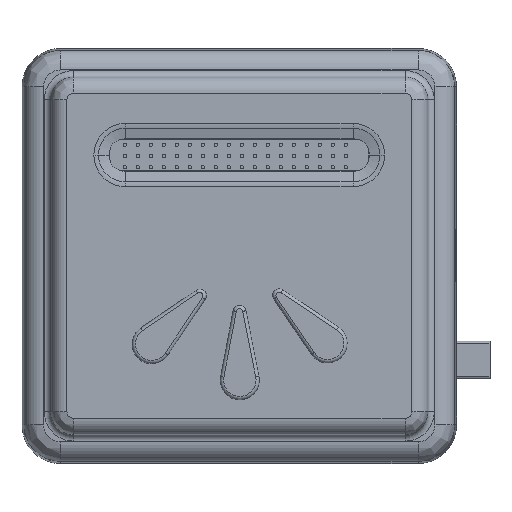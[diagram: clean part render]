
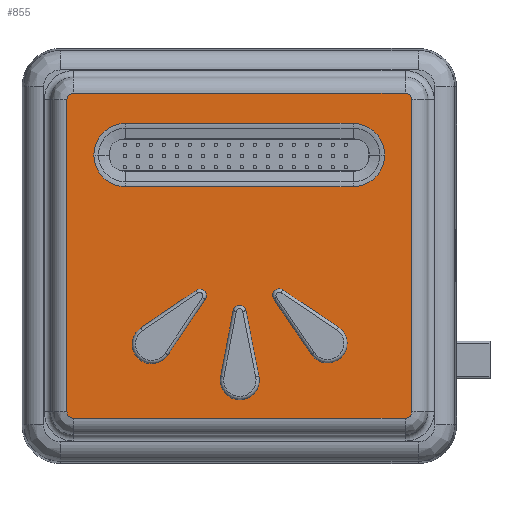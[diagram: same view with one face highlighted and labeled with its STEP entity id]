
A CAD part, top view. The second image highlights one B-rep face of the part: STEP entity #855.
In plain terms, the highlighted planar face has unit normal (0, 0, 1).
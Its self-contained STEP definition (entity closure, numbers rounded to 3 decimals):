
#551=FACE_BOUND('',#1646,.T.);
#552=FACE_BOUND('',#1647,.T.);
#553=FACE_BOUND('',#1648,.T.);
#554=FACE_BOUND('',#1649,.T.);
#555=FACE_BOUND('',#1650,.T.);
#855=ADVANCED_FACE('',(#551,#552,#553,#554,#555),#1233,.T.);
#1233=PLANE('',#6604);
#1646=EDGE_LOOP('',(#2701,#2702,#2703,#2704,#2705,#2706));
#1647=EDGE_LOOP('',(#2707,#2708,#2709,#2710,#2711,#2712,#2713,#2714));
#1648=EDGE_LOOP('',(#2715,#2716,#2717,#2718));
#1649=EDGE_LOOP('',(#2719,#2720,#2721,#2722));
#1650=EDGE_LOOP('',(#2723,#2724,#2725,#2726));
#2254=CIRCLE('',#6590,4.869);
#2255=CIRCLE('',#6591,4.869);
#2256=CIRCLE('',#6592,4.869);
#2257=CIRCLE('',#6593,4.869);
#2258=CIRCLE('',#6594,1.);
#2259=CIRCLE('',#6595,1.);
#2260=CIRCLE('',#6596,1.);
#2261=CIRCLE('',#6597,1.);
#2262=CIRCLE('',#6598,3.);
#2263=CIRCLE('',#6599,1.);
#2264=CIRCLE('',#6600,3.);
#2265=CIRCLE('',#6601,1.);
#2266=CIRCLE('',#6602,3.);
#2267=CIRCLE('',#6603,1.);
#2701=ORIENTED_EDGE('',*,*,#5094,.T.);
#2702=ORIENTED_EDGE('',*,*,#5095,.T.);
#2703=ORIENTED_EDGE('',*,*,#5096,.T.);
#2704=ORIENTED_EDGE('',*,*,#5097,.T.);
#2705=ORIENTED_EDGE('',*,*,#5098,.T.);
#2706=ORIENTED_EDGE('',*,*,#5099,.T.);
#2707=ORIENTED_EDGE('',*,*,#5100,.F.);
#2708=ORIENTED_EDGE('',*,*,#5101,.T.);
#2709=ORIENTED_EDGE('',*,*,#5102,.T.);
#2710=ORIENTED_EDGE('',*,*,#5103,.T.);
#2711=ORIENTED_EDGE('',*,*,#5104,.T.);
#2712=ORIENTED_EDGE('',*,*,#5105,.T.);
#2713=ORIENTED_EDGE('',*,*,#5106,.T.);
#2714=ORIENTED_EDGE('',*,*,#5107,.T.);
#2715=ORIENTED_EDGE('',*,*,#5108,.T.);
#2716=ORIENTED_EDGE('',*,*,#5109,.T.);
#2717=ORIENTED_EDGE('',*,*,#5110,.T.);
#2718=ORIENTED_EDGE('',*,*,#5111,.T.);
#2719=ORIENTED_EDGE('',*,*,#5112,.T.);
#2720=ORIENTED_EDGE('',*,*,#5113,.T.);
#2721=ORIENTED_EDGE('',*,*,#5114,.T.);
#2722=ORIENTED_EDGE('',*,*,#5115,.T.);
#2723=ORIENTED_EDGE('',*,*,#5116,.T.);
#2724=ORIENTED_EDGE('',*,*,#5117,.T.);
#2725=ORIENTED_EDGE('',*,*,#5118,.T.);
#2726=ORIENTED_EDGE('',*,*,#5119,.T.);
#4471=VERTEX_POINT('',#9137);
#4472=VERTEX_POINT('',#9138);
#4473=VERTEX_POINT('',#9140);
#4474=VERTEX_POINT('',#9142);
#4475=VERTEX_POINT('',#9144);
#4476=VERTEX_POINT('',#9146);
#4477=VERTEX_POINT('',#9149);
#4478=VERTEX_POINT('',#9150);
#4479=VERTEX_POINT('',#9152);
#4480=VERTEX_POINT('',#9154);
#4481=VERTEX_POINT('',#9156);
#4482=VERTEX_POINT('',#9158);
#4483=VERTEX_POINT('',#9160);
#4484=VERTEX_POINT('',#9162);
#4485=VERTEX_POINT('',#9165);
#4486=VERTEX_POINT('',#9166);
#4487=VERTEX_POINT('',#9168);
#4488=VERTEX_POINT('',#9170);
#4489=VERTEX_POINT('',#9173);
#4490=VERTEX_POINT('',#9174);
#4491=VERTEX_POINT('',#9176);
#4492=VERTEX_POINT('',#9178);
#4493=VERTEX_POINT('',#9181);
#4494=VERTEX_POINT('',#9182);
#4495=VERTEX_POINT('',#9184);
#4496=VERTEX_POINT('',#9186);
#5094=EDGE_CURVE('',#4471,#4472,#2254,.T.);
#5095=EDGE_CURVE('',#4472,#4473,#2255,.T.);
#5096=EDGE_CURVE('',#4473,#4474,#5951,.T.);
#5097=EDGE_CURVE('',#4474,#4475,#2256,.T.);
#5098=EDGE_CURVE('',#4475,#4476,#2257,.T.);
#5099=EDGE_CURVE('',#4476,#4471,#5952,.T.);
#5100=EDGE_CURVE('',#4477,#4478,#2258,.T.);
#5101=EDGE_CURVE('',#4477,#4479,#5953,.T.);
#5102=EDGE_CURVE('',#4479,#4480,#2259,.T.);
#5103=EDGE_CURVE('',#4480,#4481,#5954,.T.);
#5104=EDGE_CURVE('',#4481,#4482,#2260,.T.);
#5105=EDGE_CURVE('',#4482,#4483,#5955,.T.);
#5106=EDGE_CURVE('',#4483,#4484,#2261,.T.);
#5107=EDGE_CURVE('',#4484,#4478,#5956,.T.);
#5108=EDGE_CURVE('',#4485,#4486,#5957,.T.);
#5109=EDGE_CURVE('',#4486,#4487,#2262,.T.);
#5110=EDGE_CURVE('',#4487,#4488,#5958,.T.);
#5111=EDGE_CURVE('',#4488,#4485,#2263,.T.);
#5112=EDGE_CURVE('',#4489,#4490,#5959,.T.);
#5113=EDGE_CURVE('',#4490,#4491,#2264,.T.);
#5114=EDGE_CURVE('',#4491,#4492,#5960,.T.);
#5115=EDGE_CURVE('',#4492,#4489,#2265,.T.);
#5116=EDGE_CURVE('',#4493,#4494,#5961,.T.);
#5117=EDGE_CURVE('',#4494,#4495,#2266,.T.);
#5118=EDGE_CURVE('',#4495,#4496,#5962,.T.);
#5119=EDGE_CURVE('',#4496,#4493,#2267,.T.);
#5951=LINE('',#9141,#6276);
#5952=LINE('',#9147,#6277);
#5953=LINE('',#9151,#6278);
#5954=LINE('',#9155,#6279);
#5955=LINE('',#9159,#6280);
#5956=LINE('',#9163,#6281);
#5957=LINE('',#9164,#6282);
#5958=LINE('',#9169,#6283);
#5959=LINE('',#9172,#6284);
#5960=LINE('',#9177,#6285);
#5961=LINE('',#9180,#6286);
#5962=LINE('',#9185,#6287);
#6276=VECTOR('',#7378,1.);
#6277=VECTOR('',#7383,1.);
#6278=VECTOR('',#7386,1.);
#6279=VECTOR('',#7389,1.);
#6280=VECTOR('',#7392,1.);
#6281=VECTOR('',#7395,1.);
#6282=VECTOR('',#7396,1.);
#6283=VECTOR('',#7399,1.);
#6284=VECTOR('',#7402,1.);
#6285=VECTOR('',#7405,1.);
#6286=VECTOR('',#7408,1.);
#6287=VECTOR('',#7411,1.);
#6590=AXIS2_PLACEMENT_3D('',#9136,#7374,#7375);
#6591=AXIS2_PLACEMENT_3D('',#9139,#7376,#7377);
#6592=AXIS2_PLACEMENT_3D('',#9143,#7379,#7380);
#6593=AXIS2_PLACEMENT_3D('',#9145,#7381,#7382);
#6594=AXIS2_PLACEMENT_3D('',#9148,#7384,#7385);
#6595=AXIS2_PLACEMENT_3D('',#9153,#7387,#7388);
#6596=AXIS2_PLACEMENT_3D('',#9157,#7390,#7391);
#6597=AXIS2_PLACEMENT_3D('',#9161,#7393,#7394);
#6598=AXIS2_PLACEMENT_3D('',#9167,#7397,#7398);
#6599=AXIS2_PLACEMENT_3D('',#9171,#7400,#7401);
#6600=AXIS2_PLACEMENT_3D('',#9175,#7403,#7404);
#6601=AXIS2_PLACEMENT_3D('',#9179,#7406,#7407);
#6602=AXIS2_PLACEMENT_3D('',#9183,#7409,#7410);
#6603=AXIS2_PLACEMENT_3D('',#9187,#7412,#7413);
#6604=AXIS2_PLACEMENT_3D('',#9188,#7414,#7415);
#7374=DIRECTION('',(0.,0.,-1.));
#7375=DIRECTION('',(1.,0.,0.));
#7376=DIRECTION('',(0.,0.,-1.));
#7377=DIRECTION('',(1.,0.,0.));
#7378=DIRECTION('',(1.,0.,0.));
#7379=DIRECTION('',(0.,0.,-1.));
#7380=DIRECTION('',(1.,0.,0.));
#7381=DIRECTION('',(0.,0.,-1.));
#7382=DIRECTION('',(1.,0.,0.));
#7383=DIRECTION('',(-1.,0.,0.));
#7384=DIRECTION('',(0.,0.,-1.));
#7385=DIRECTION('',(1.,0.,0.));
#7386=DIRECTION('',(1.,0.,0.));
#7387=DIRECTION('',(0.,0.,1.));
#7388=DIRECTION('',(1.,0.,0.));
#7389=DIRECTION('',(0.,1.,0.));
#7390=DIRECTION('',(0.,0.,1.));
#7391=DIRECTION('',(1.,0.,0.));
#7392=DIRECTION('',(-1.,0.,0.));
#7393=DIRECTION('',(0.,0.,1.));
#7394=DIRECTION('',(1.,0.,0.));
#7395=DIRECTION('',(0.,-1.,0.));
#7396=DIRECTION('',(0.831,-0.556,0.));
#7397=DIRECTION('',(0.,0.,-1.));
#7398=DIRECTION('',(1.,0.,0.));
#7399=DIRECTION('',(-0.563,0.827,0.));
#7400=DIRECTION('',(0.,0.,-1.));
#7401=DIRECTION('',(1.,0.,0.));
#7402=DIRECTION('',(0.194,-0.981,0.));
#7403=DIRECTION('',(0.,0.,-1.));
#7404=DIRECTION('',(1.,0.,0.));
#7405=DIRECTION('',(0.187,0.982,0.));
#7406=DIRECTION('',(0.,0.,-1.));
#7407=DIRECTION('',(1.,0.,0.));
#7408=DIRECTION('',(-0.556,-0.831,0.));
#7409=DIRECTION('',(0.,0.,-1.));
#7410=DIRECTION('',(1.,0.,0.));
#7411=DIRECTION('',(0.827,0.563,0.));
#7412=DIRECTION('',(0.,0.,-1.));
#7413=DIRECTION('',(1.,0.,0.));
#7414=DIRECTION('',(0.,0.,1.));
#7415=DIRECTION('',(1.,0.,0.));
#9136=CARTESIAN_POINT('',(-17.5,15.5,16.));
#9137=CARTESIAN_POINT('',(-17.5,10.631,16.));
#9138=CARTESIAN_POINT('',(-22.369,15.5,16.));
#9139=CARTESIAN_POINT('',(-17.5,15.5,16.));
#9140=CARTESIAN_POINT('',(-17.5,20.369,16.));
#9141=CARTESIAN_POINT('',(0.,20.369,16.));
#9142=CARTESIAN_POINT('',(17.5,20.369,16.));
#9143=CARTESIAN_POINT('',(17.5,15.5,16.));
#9144=CARTESIAN_POINT('',(22.369,15.5,16.));
#9145=CARTESIAN_POINT('',(17.5,15.5,16.));
#9146=CARTESIAN_POINT('',(17.5,10.631,16.));
#9147=CARTESIAN_POINT('',(0.,10.631,16.));
#9148=CARTESIAN_POINT('',(-25.5,-24.,16.));
#9149=CARTESIAN_POINT('',(-25.5,-25.,16.));
#9150=CARTESIAN_POINT('',(-26.5,-24.,16.));
#9151=CARTESIAN_POINT('',(0.,-25.,16.));
#9152=CARTESIAN_POINT('',(25.5,-25.,16.));
#9153=CARTESIAN_POINT('',(25.5,-24.,16.));
#9154=CARTESIAN_POINT('',(26.5,-24.,16.));
#9155=CARTESIAN_POINT('',(26.5,0.,16.));
#9156=CARTESIAN_POINT('',(26.5,24.,16.));
#9157=CARTESIAN_POINT('',(25.5,24.,16.));
#9158=CARTESIAN_POINT('',(25.5,25.,16.));
#9159=CARTESIAN_POINT('',(0.,25.,16.));
#9160=CARTESIAN_POINT('',(-25.5,25.,16.));
#9161=CARTESIAN_POINT('',(-25.5,24.,16.));
#9162=CARTESIAN_POINT('',(-26.5,24.,16.));
#9163=CARTESIAN_POINT('',(-26.5,0.,16.));
#9164=CARTESIAN_POINT('',(-0.355,-0.53,16.));
#9165=CARTESIAN_POINT('',(6.694,-5.248,16.));
#9166=CARTESIAN_POINT('',(15.26,-10.982,16.));
#9167=CARTESIAN_POINT('',(13.592,-13.475,16.));
#9168=CARTESIAN_POINT('',(11.112,-15.163,16.));
#9169=CARTESIAN_POINT('',(0.54,0.368,16.));
#9170=CARTESIAN_POINT('',(5.311,-6.642,16.));
#9171=CARTESIAN_POINT('',(6.138,-6.079,16.));
#9172=CARTESIAN_POINT('',(-0.625,-0.124,16.));
#9173=CARTESIAN_POINT('',(1.023,-8.445,16.));
#9174=CARTESIAN_POINT('',(3.025,-18.556,16.));
#9175=CARTESIAN_POINT('',(0.082,-19.139,16.));
#9176=CARTESIAN_POINT('',(-2.865,-18.579,16.));
#9177=CARTESIAN_POINT('',(0.642,-0.122,16.));
#9178=CARTESIAN_POINT('',(-0.941,-8.452,16.));
#9179=CARTESIAN_POINT('',(0.042,-8.639,16.));
#9180=CARTESIAN_POINT('',(-0.53,0.355,16.));
#9181=CARTESIAN_POINT('',(-5.248,-6.694,16.));
#9182=CARTESIAN_POINT('',(-10.982,-15.26,16.));
#9183=CARTESIAN_POINT('',(-13.475,-13.592,16.));
#9184=CARTESIAN_POINT('',(-15.163,-11.112,16.));
#9185=CARTESIAN_POINT('',(0.368,-0.54,16.));
#9186=CARTESIAN_POINT('',(-6.642,-5.311,16.));
#9187=CARTESIAN_POINT('',(-6.079,-6.138,16.));
#9188=CARTESIAN_POINT('',(0.,0.,16.));
